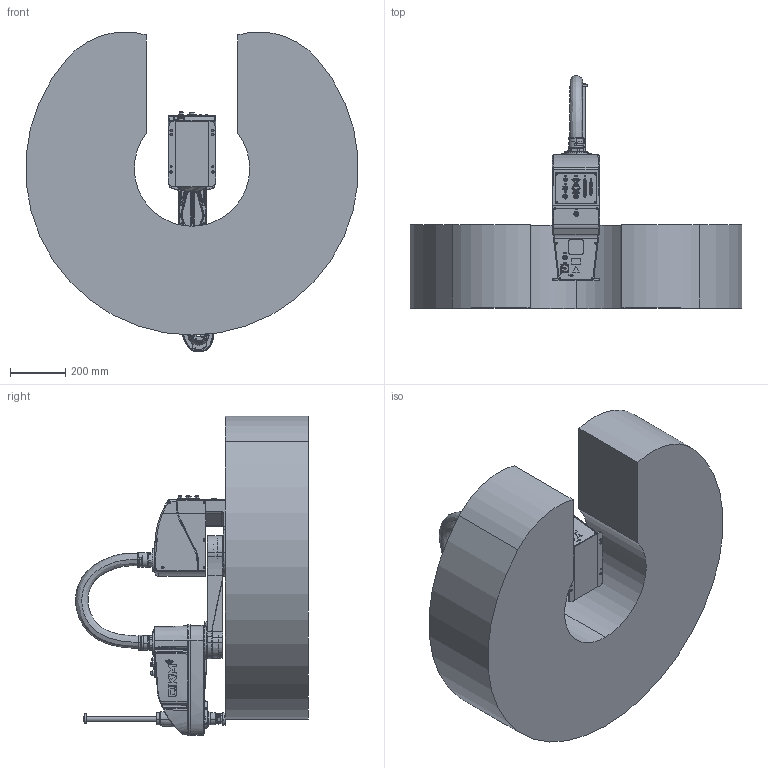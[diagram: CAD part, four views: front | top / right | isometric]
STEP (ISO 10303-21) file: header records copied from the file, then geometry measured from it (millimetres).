
FILE_DESCRIPTION (( 'STEP AP214' ), '1' );
FILE_NAME ('AH6-0600-0204-3000-T0-2.0.0.STEP', '2020-12-24T07:42:00', ( '' ), ( '' ), 'SwSTEP 2.0', 'SolidWorks 2017', '' );
FILE_SCHEMA (( 'AUTOMOTIVE_DESIGN' ));
Length unit declared in the file: millimetre
Products named in the file (7): AH6-0600-0204-3000-T1-2.0.0; AH6-0600-0204-3000-T5-2.0.0; AH6-0600-0204-3000-T3-2.0.0; AH6-0600-0204-3000-T0-2.0.0; AH6-0600-0204-3000-T6-2.0.0; AH6-0600-0204-3000-T4-2.0.0; AH6-0600-0204-3000-T2-2.0.0
Assembly tree (6 placements, depth 2):
  AH6-0600-0204-3000-T0-2.0.0
    AH6-0600-0204-3000-T3-2.0.0
    AH6-0600-0204-3000-T5-2.0.0
    AH6-0600-0204-3000-T1-2.0.0
    AH6-0600-0204-3000-T2-2.0.0
    AH6-0600-0204-3000-T4-2.0.0
    AH6-0600-0204-3000-T6-2.0.0
Bounding box: 1196.64 x 839.26 x 1153.43 mm (x, y, z)
Volume: 278098422.8 mm3; surface area: 4441528.8 mm2
Topology: 7 solids, 7 shells, 6714 faces, 17311 edges, 11029 vertices
Faces by surface type: plane 3072, bspline 1927, cylinder 1209, cone 495, torus 11
Entity records: 360293 total; most frequent: CARTESIAN_POINT 169422, ORIENTED_EDGE 34430, DIRECTION 24579, EDGE_CURVE 17215, VERTEX_POINT 11029, VECTOR 8817, LINE 8817, AXIS2_PLACEMENT_3D 7881
